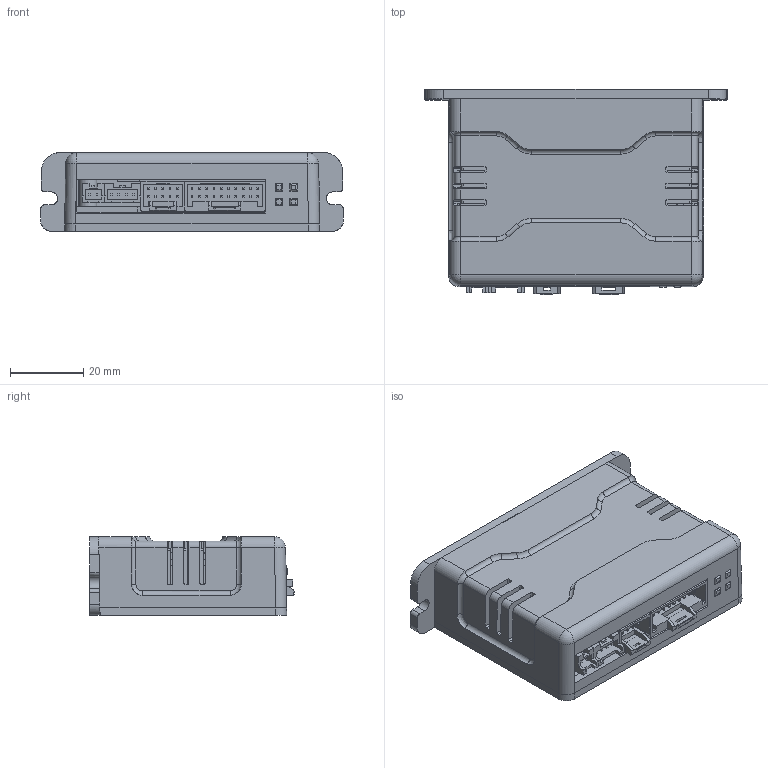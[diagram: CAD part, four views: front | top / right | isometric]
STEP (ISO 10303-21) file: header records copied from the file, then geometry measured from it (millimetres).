
FILE_DESCRIPTION(('STEP AP214'),'1');
FILE_NAME('D:/FASTECH/작업도면/CAD DATA/Mini Case Assembly/EzI-SERVO 3D도면/2.stp','2011-01-14T06:55:46',(' '),(' '),'Spatial InterOp 3D',' ',' ');
FILE_SCHEMA(('automotive_design'));
Length unit declared in the file: millimetre
Products named in the file (55): LENS; 파트58; 파트67; 파트57;  TRM_SRF;     MSBR; 파트54; 파트53; EZI-SERVO_MINI.1\CSAE_UPPER; EZI-SERVO_MINI.1\CASE_LOWER; EZI-SERVO_MINI.1\LENS; EZI-SERVO_MINI.1\MAIN PCB; EZI-SERVO_MINI.1\CONNECTOR PCB; EZI-SERVO_MINI.1\LED PCB; EZI-SERVO_MINI.1\LED.1; EZI-SERVO_MINI.1\LED.2; EZI-SERVO_MINI.1\LED.3; EZI-SERVO_MINI.1\LED.4; Ezi-SERVO_MINI_AllCATPart; EZI-SERVO_MINI.1\M3-L10; EZI-SERVO_MINI.1\M3-L18
Bounding box: 82.84 x 56.07 x 21.5 mm (x, y, z)
Volume: 36668.9 mm3; surface area: 41343.2 mm2
Topology: 54 solids, 171 shells, 2720 faces, 7010 edges, 4547 vertices
Faces by surface type: plane 1810, cylinder 654, sphere 80, bspline 69, torus 55, revolution 34, cone 18
Entity records: 117033 total; most frequent: CARTESIAN_POINT 19019, DIRECTION 13381, ORIENTED_EDGE 13209, EDGE_CURVE 6912, LINE 5311, VECTOR 5311, STYLED_ITEM 4691, PRESENTATION_STYLE_ASSIGNMENT 4691
